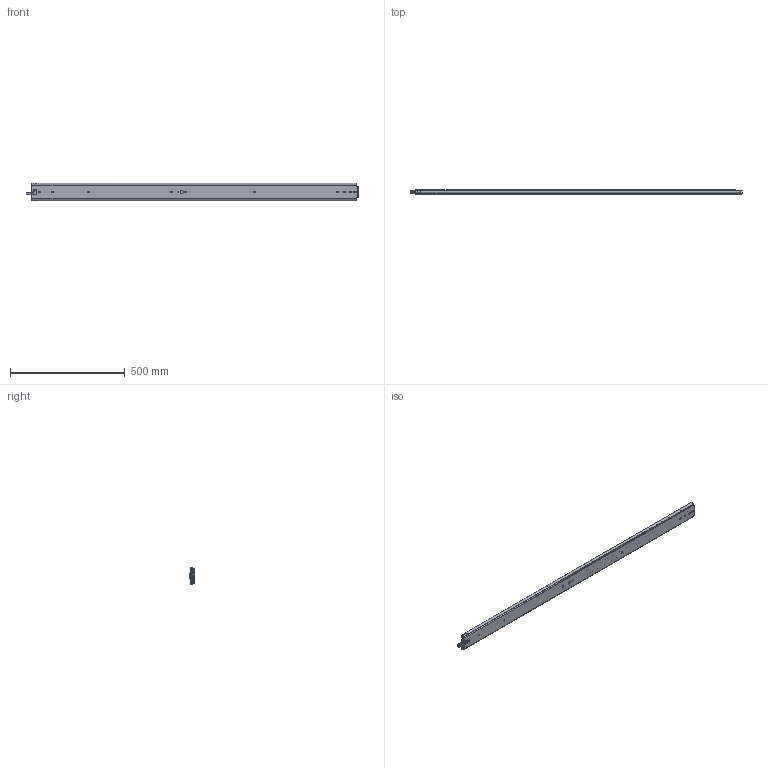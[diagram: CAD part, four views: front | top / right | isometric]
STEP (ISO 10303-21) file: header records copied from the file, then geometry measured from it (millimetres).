
FILE_DESCRIPTION((''),'2;1');
FILE_NAME('DG-76-3S-56ZUO_ASM','2023-05-11T',('jishu015'),(''),'PRO/ENGINEER BY PARAMETRIC TECHNOLOGY CORPORATION, 2010280','PRO/ENGINEER BY PARAMETRIC TECHNOLOGY CORPORATION, 2010280','');
FILE_SCHEMA(('CONFIG_CONTROL_DESIGN'));
Products named in the file (29): KP-76-04WAIKE-1816_____________; 1076-WAIKEZIDANJIAO1621__; WAIK16______________ASM; 1076XIAOZHUTIAO-2251621__; 16_____________; 1076XIAOZHUTIAO-1751621___ASM; KP-76-04ZHONGGUI181611_; 76CHANGGUIZHONGGUIJIAO1621_____; 3X6WODIN16_____________; ZHONGGUIBAIKOU16_____________; PJ-76-30____________; PJ-76-03____________; 76-XIAOZHUJIA-11____________; GANGZHU-XIAO____________; ZHUJIA-XIAO_____________ASM; ZHONGGUI6______________ASM; KP-76-04NEIGUI1816_____________; PJ-76-31____________; DAOGPIAN16_____________; 1053-3SBANJ01____________; JIAO-11____________; 76XINSUOKOU____________; PJ-338____________; PJ-356____________; PJ-357____________; PJ-336____________; M4X4____________; NEIGUI16______________ASM; DG-76-3S-56ZUO_ASM
Assembly tree (108 placements, depth 4):
  DG-76-3S-56ZUO_ASM
    WAIK16______________ASM
      KP-76-04WAIKE-1816_____________
      1076-WAIKEZIDANJIAO1621__  x2
    1076XIAOZHUTIAO-1751621___ASM  x2
      1076XIAOZHUTIAO-2251621__
      16_____________
    ZHONGGUI6______________ASM
      KP-76-04ZHONGGUI181611_
      76CHANGGUIZHONGGUIJIAO1621_____
      3X6WODIN16_____________
      ZHONGGUIBAIKOU16_____________
      PJ-76-30____________
      PJ-76-03____________
      ZHUJIA-XIAO_____________ASM
        76-XIAOZHUJIA-11____________
        GANGZHU-XIAO____________  x54
    NEIGUI16______________ASM
      KP-76-04NEIGUI1816_____________
      PJ-76-31____________
      DAOGPIAN16_____________
      1053-3SBANJ01____________
      JIAO-11____________
      76XINSUOKOU____________
      PJ-338____________
      PJ-356____________
      PJ-357____________
      PJ-336____________
      M4X4____________
Bounding box: 1448.32 x 20.7 x 75.3 mm (x, y, z)
Volume: 942197 mm3; surface area: 908427.1 mm2
Topology: 130 solids, 130 shells, 2965 faces, 9113 edges, 5737 vertices
Faces by surface type: plane 1537, cylinder 1082, sphere 219, bspline 60, cone 28, extrusion 23, torus 16
Entity records: 93696 total; most frequent: CARTESIAN_POINT 24640, ORIENTED_EDGE 15230, DIRECTION 13610, EDGE_CURVE 7615, VERTEX_POINT 4961, AXIS2_PLACEMENT_3D 4709, VECTOR 4192, LINE 4169
